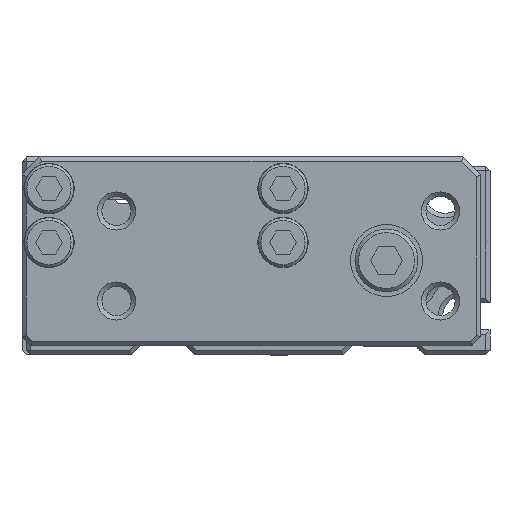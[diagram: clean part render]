
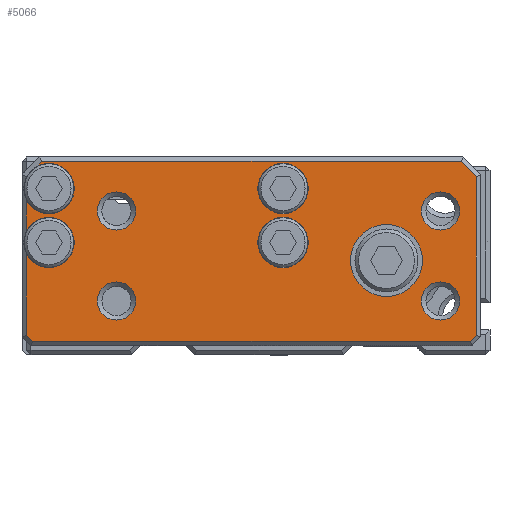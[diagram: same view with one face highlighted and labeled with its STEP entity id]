
A CAD part, front view. The second image highlights one B-rep face of the part: STEP entity #5066.
In plain terms, the highlighted planar face has unit normal (0, -1, 0).
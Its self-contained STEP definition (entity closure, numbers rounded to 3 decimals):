
#4888=CARTESIAN_POINT('',(8.121,-11.8,-4.5));
#4889=VERTEX_POINT('',#4888);
#4890=CARTESIAN_POINT('',(6.,-11.8,-4.5));
#4891=DIRECTION('',(0.0,-1.0,0.0));
#4892=DIRECTION('',(-1.0,0.0,0.0));
#4893=AXIS2_PLACEMENT_3D('',#4890,#4891,#4892);
#4894=CIRCLE('',#4893,2.121);
#4895=EDGE_CURVE('',#4889,#4889,#4894,.T.);
#4900=CARTESIAN_POINT('',(-40.5,-11.8,11.5));
#4901=DIRECTION('',(0.0,-1.0,0.0));
#4902=DIRECTION('',(0.0,0.0,-1.0));
#4903=AXIS2_PLACEMENT_3D('',#4900,#4901,#4902);
#4904=PLANE('',#4903);
#4905=CARTESIAN_POINT('',(-40.,-11.8,-8.293));
#4906=VERTEX_POINT('',#4905);
#4907=CARTESIAN_POINT('',(-40.,-11.8,0.739));
#4908=VERTEX_POINT('',#4907);
#4909=CARTESIAN_POINT('',(-40.,-11.8,-8.293));
#4910=DIRECTION('',(0.0,0.0,1.0));
#4911=VECTOR('',#4910,9.032);
#4912=LINE('',#4909,#4911);
#4913=EDGE_CURVE('',#4906,#4908,#4912,.T.);
#4914=ORIENTED_EDGE('',*,*,#4913,.F.);
#4915=CARTESIAN_POINT('',(-39.293,-11.8,-9.0));
#4916=VERTEX_POINT('',#4915);
#4917=CARTESIAN_POINT('',(-39.293,-11.8,-9.0));
#4918=DIRECTION('',(-0.707,0.0,0.707));
#4919=VECTOR('',#4918,1.);
#4920=LINE('',#4917,#4919);
#4921=EDGE_CURVE('',#4916,#4906,#4920,.T.);
#4922=ORIENTED_EDGE('',*,*,#4921,.F.);
#4923=CARTESIAN_POINT('',(9.293,-11.8,-9.));
#4924=VERTEX_POINT('',#4923);
#4925=CARTESIAN_POINT('',(9.293,-11.8,-9.));
#4926=DIRECTION('',(-1.0,0.0,0.0));
#4927=VECTOR('',#4926,48.586);
#4928=LINE('',#4925,#4927);
#4929=EDGE_CURVE('',#4924,#4916,#4928,.T.);
#4930=ORIENTED_EDGE('',*,*,#4929,.F.);
#4931=CARTESIAN_POINT('',(10.0,-11.8,-8.293));
#4932=VERTEX_POINT('',#4931);
#4933=CARTESIAN_POINT('',(10.0,-11.8,-8.293));
#4934=DIRECTION('',(-0.707,0.,-0.707));
#4935=VECTOR('',#4934,1.);
#4936=LINE('',#4933,#4935);
#4937=EDGE_CURVE('',#4932,#4924,#4936,.T.);
#4938=ORIENTED_EDGE('',*,*,#4937,.F.);
#4939=CARTESIAN_POINT('',(10.0,-11.8,9.293));
#4940=VERTEX_POINT('',#4939);
#4941=CARTESIAN_POINT('',(10.0,-11.8,9.293));
#4942=DIRECTION('',(0.0,0.0,-1.0));
#4943=VECTOR('',#4942,17.586);
#4944=LINE('',#4941,#4943);
#4945=EDGE_CURVE('',#4940,#4932,#4944,.T.);
#4946=ORIENTED_EDGE('',*,*,#4945,.F.);
#4947=CARTESIAN_POINT('',(8.293,-11.8,11.0));
#4948=VERTEX_POINT('',#4947);
#4949=CARTESIAN_POINT('',(8.293,-11.8,11.0));
#4950=DIRECTION('',(0.707,0.,-0.707));
#4951=VECTOR('',#4950,2.414);
#4952=LINE('',#4949,#4951);
#4953=EDGE_CURVE('',#4948,#4940,#4952,.T.);
#4954=ORIENTED_EDGE('',*,*,#4953,.F.);
#4955=CARTESIAN_POINT('',(-38.293,-11.8,11.0));
#4956=VERTEX_POINT('',#4955);
#4957=CARTESIAN_POINT('',(-38.293,-11.8,11.0));
#4958=DIRECTION('',(1.0,0.0,0.0));
#4959=VECTOR('',#4958,46.586);
#4960=LINE('',#4957,#4959);
#4961=EDGE_CURVE('',#4956,#4948,#4960,.T.);
#4962=ORIENTED_EDGE('',*,*,#4961,.F.);
#4963=CARTESIAN_POINT('',(-38.828,-11.8,10.465));
#4964=VERTEX_POINT('',#4963);
#4965=CARTESIAN_POINT('',(-38.828,-11.8,10.465));
#4966=DIRECTION('',(0.707,0.0,0.707));
#4967=VECTOR('',#4966,0.756);
#4968=LINE('',#4965,#4967);
#4969=EDGE_CURVE('',#4964,#4956,#4968,.T.);
#4970=ORIENTED_EDGE('',*,*,#4969,.F.);
#4971=CARTESIAN_POINT('',(-40.,-11.8,6.739));
#4972=VERTEX_POINT('',#4971);
#4973=CARTESIAN_POINT('',(-37.5,-11.8,8.0));
#4974=DIRECTION('',(0.0,1.0,0.0));
#4975=DIRECTION('',(1.0,0.0,0.0));
#4976=AXIS2_PLACEMENT_3D('',#4973,#4974,#4975);
#4977=CIRCLE('',#4976,2.8);
#4978=EDGE_CURVE('',#4964,#4972,#4977,.T.);
#4979=ORIENTED_EDGE('',*,*,#4978,.T.);
#4980=CARTESIAN_POINT('',(-40.,-11.8,3.261));
#4981=VERTEX_POINT('',#4980);
#4982=CARTESIAN_POINT('',(-40.,-11.8,3.261));
#4983=DIRECTION('',(0.0,0.0,1.0));
#4984=VECTOR('',#4983,3.478);
#4985=LINE('',#4982,#4984);
#4986=EDGE_CURVE('',#4981,#4972,#4985,.T.);
#4987=ORIENTED_EDGE('',*,*,#4986,.F.);
#4988=CARTESIAN_POINT('',(-37.5,-11.8,2.));
#4989=DIRECTION('',(0.0,1.0,0.0));
#4990=DIRECTION('',(1.0,0.0,0.0));
#4991=AXIS2_PLACEMENT_3D('',#4988,#4989,#4990);
#4992=CIRCLE('',#4991,2.8);
#4993=EDGE_CURVE('',#4981,#4908,#4992,.T.);
#4994=ORIENTED_EDGE('',*,*,#4993,.T.);
#4995=EDGE_LOOP('',(#4914,#4922,#4930,#4938,#4946,#4954,#4962,#4970,#4979,#4987,#4994));
#4996=FACE_OUTER_BOUND('',#4995,.T.);
#4997=CARTESIAN_POINT('',(-27.879,-11.8,5.5));
#4998=VERTEX_POINT('',#4997);
#4999=CARTESIAN_POINT('',(-30.0,-11.8,5.5));
#5000=DIRECTION('',(0.0,-1.0,0.0));
#5001=DIRECTION('',(-1.0,0.0,0.0));
#5002=AXIS2_PLACEMENT_3D('',#4999,#5000,#5001);
#5003=CIRCLE('',#5002,2.121);
#5004=EDGE_CURVE('',#4998,#4998,#5003,.T.);
#5005=ORIENTED_EDGE('',*,*,#5004,.F.);
#5006=EDGE_LOOP('',(#5005));
#5007=FACE_BOUND('',#5006,.T.);
#5008=CARTESIAN_POINT('',(-27.879,-11.8,-4.5));
#5009=VERTEX_POINT('',#5008);
#5010=CARTESIAN_POINT('',(-30.0,-11.8,-4.5));
#5011=DIRECTION('',(0.0,-1.0,0.0));
#5012=DIRECTION('',(-1.0,0.0,0.0));
#5013=AXIS2_PLACEMENT_3D('',#5010,#5011,#5012);
#5014=CIRCLE('',#5013,2.121);
#5015=EDGE_CURVE('',#5009,#5009,#5014,.T.);
#5016=ORIENTED_EDGE('',*,*,#5015,.F.);
#5017=EDGE_LOOP('',(#5016));
#5018=FACE_BOUND('',#5017,.T.);
#5019=CARTESIAN_POINT('',(4.0,-11.8,0.0));
#5020=VERTEX_POINT('',#5019);
#5021=CARTESIAN_POINT('',(0.,-11.8,0.0));
#5022=DIRECTION('',(0.0,1.0,0.0));
#5023=DIRECTION('',(1.0,0.0,0.0));
#5024=AXIS2_PLACEMENT_3D('',#5021,#5022,#5023);
#5025=CIRCLE('',#5024,4.0);
#5026=EDGE_CURVE('',#5020,#5020,#5025,.T.);
#5027=ORIENTED_EDGE('',*,*,#5026,.T.);
#5028=EDGE_LOOP('',(#5027));
#5029=FACE_BOUND('',#5028,.T.);
#5030=CARTESIAN_POINT('',(-8.7,-11.8,2.));
#5031=VERTEX_POINT('',#5030);
#5032=CARTESIAN_POINT('',(-11.5,-11.8,2.));
#5033=DIRECTION('',(0.0,1.0,0.0));
#5034=DIRECTION('',(1.0,0.0,0.0));
#5035=AXIS2_PLACEMENT_3D('',#5032,#5033,#5034);
#5036=CIRCLE('',#5035,2.8);
#5037=EDGE_CURVE('',#5031,#5031,#5036,.T.);
#5038=ORIENTED_EDGE('',*,*,#5037,.T.);
#5039=EDGE_LOOP('',(#5038));
#5040=FACE_BOUND('',#5039,.T.);
#5041=CARTESIAN_POINT('',(-8.7,-11.8,8.0));
#5042=VERTEX_POINT('',#5041);
#5043=CARTESIAN_POINT('',(-11.5,-11.8,8.0));
#5044=DIRECTION('',(0.0,1.0,0.0));
#5045=DIRECTION('',(1.0,0.0,0.0));
#5046=AXIS2_PLACEMENT_3D('',#5043,#5044,#5045);
#5047=CIRCLE('',#5046,2.8);
#5048=EDGE_CURVE('',#5042,#5042,#5047,.T.);
#5049=ORIENTED_EDGE('',*,*,#5048,.T.);
#5050=EDGE_LOOP('',(#5049));
#5051=FACE_BOUND('',#5050,.T.);
#5052=CARTESIAN_POINT('',(8.121,-11.8,5.5));
#5053=VERTEX_POINT('',#5052);
#5054=CARTESIAN_POINT('',(6.,-11.8,5.5));
#5055=DIRECTION('',(0.0,-1.0,0.0));
#5056=DIRECTION('',(-1.0,0.0,0.0));
#5057=AXIS2_PLACEMENT_3D('',#5054,#5055,#5056);
#5058=CIRCLE('',#5057,2.121);
#5059=EDGE_CURVE('',#5053,#5053,#5058,.T.);
#5060=ORIENTED_EDGE('',*,*,#5059,.F.);
#5061=EDGE_LOOP('',(#5060));
#5062=FACE_BOUND('',#5061,.T.);
#5063=ORIENTED_EDGE('',*,*,#4895,.F.);
#5064=EDGE_LOOP('',(#5063));
#5065=FACE_BOUND('',#5064,.T.);
#5066=ADVANCED_FACE('',(#4996,#5007,#5018,#5029,#5040,#5051,#5062,#5065),#4904,.T.);
